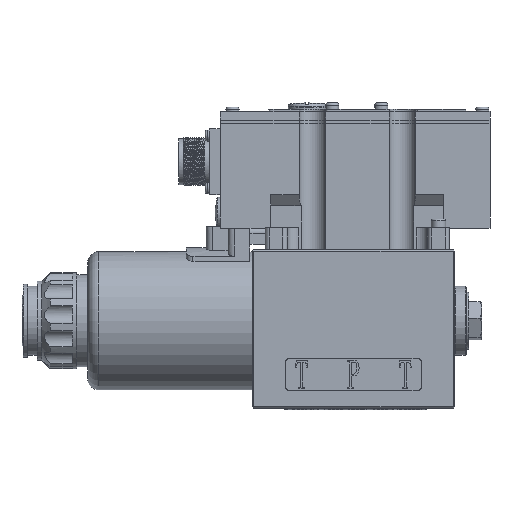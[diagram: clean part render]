
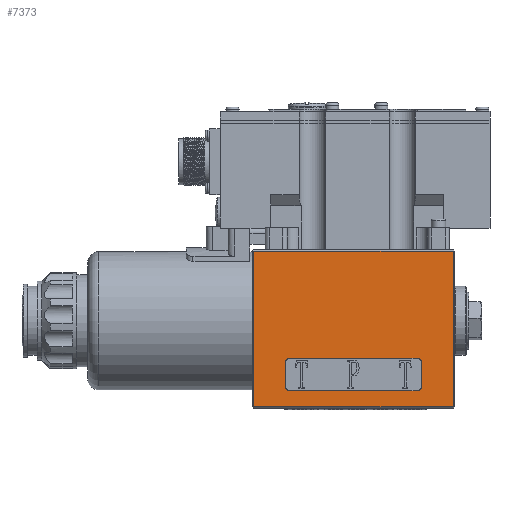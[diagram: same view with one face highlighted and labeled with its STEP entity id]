
A CAD part, front view. The second image highlights one B-rep face of the part: STEP entity #7373.
In plain terms, the highlighted planar face has unit normal (0, -1, 0).
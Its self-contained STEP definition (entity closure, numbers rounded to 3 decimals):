
#1721=PLANE('',#21527);
#3988=LINE('',#61844,#5641);
#3989=LINE('',#61847,#5642);
#3990=LINE('',#61849,#5643);
#3991=LINE('',#61851,#5644);
#3992=LINE('',#61855,#5645);
#3993=LINE('',#61859,#5646);
#3994=LINE('',#61863,#5647);
#3995=LINE('',#61867,#5648);
#5641=VECTOR('',#25100,1.);
#5642=VECTOR('',#25101,1.);
#5643=VECTOR('',#25102,1.);
#5644=VECTOR('',#25103,1.);
#5645=VECTOR('',#25106,1.);
#5646=VECTOR('',#25109,1.);
#5647=VECTOR('',#25112,1.);
#5648=VECTOR('',#25115,1.);
#7373=ADVANCED_FACE('',(#8257,#8258),#1721,.T.);
#8257=FACE_BOUND('',#9176,.T.);
#8258=FACE_BOUND('',#9177,.T.);
#9176=EDGE_LOOP('',(#12563,#12564,#12565,#12566));
#9177=EDGE_LOOP('',(#12567,#12568,#12569,#12570,#12571,#12572,#12573,#12574));
#12563=ORIENTED_EDGE('',*,*,#18603,.T.);
#12564=ORIENTED_EDGE('',*,*,#18604,.T.);
#12565=ORIENTED_EDGE('',*,*,#18605,.T.);
#12566=ORIENTED_EDGE('',*,*,#18606,.T.);
#12567=ORIENTED_EDGE('',*,*,#18607,.T.);
#12568=ORIENTED_EDGE('',*,*,#18608,.T.);
#12569=ORIENTED_EDGE('',*,*,#18609,.T.);
#12570=ORIENTED_EDGE('',*,*,#18610,.T.);
#12571=ORIENTED_EDGE('',*,*,#18611,.T.);
#12572=ORIENTED_EDGE('',*,*,#18612,.T.);
#12573=ORIENTED_EDGE('',*,*,#18613,.T.);
#12574=ORIENTED_EDGE('',*,*,#18614,.T.);
#16341=VERTEX_POINT('',#61845);
#16342=VERTEX_POINT('',#61846);
#16343=VERTEX_POINT('',#61848);
#16344=VERTEX_POINT('',#61850);
#16345=VERTEX_POINT('',#61853);
#16346=VERTEX_POINT('',#61854);
#16347=VERTEX_POINT('',#61856);
#16348=VERTEX_POINT('',#61858);
#16349=VERTEX_POINT('',#61860);
#16350=VERTEX_POINT('',#61862);
#16351=VERTEX_POINT('',#61864);
#16352=VERTEX_POINT('',#61866);
#18603=EDGE_CURVE('',#16341,#16342,#3988,.T.);
#18604=EDGE_CURVE('',#16342,#16343,#3989,.T.);
#18605=EDGE_CURVE('',#16343,#16344,#3990,.T.);
#18606=EDGE_CURVE('',#16344,#16341,#3991,.T.);
#18607=EDGE_CURVE('',#16345,#16346,#20324,.T.);
#18608=EDGE_CURVE('',#16346,#16347,#3992,.T.);
#18609=EDGE_CURVE('',#16347,#16348,#20325,.T.);
#18610=EDGE_CURVE('',#16348,#16349,#3993,.T.);
#18611=EDGE_CURVE('',#16349,#16350,#20326,.T.);
#18612=EDGE_CURVE('',#16350,#16351,#3994,.T.);
#18613=EDGE_CURVE('',#16351,#16352,#20327,.T.);
#18614=EDGE_CURVE('',#16352,#16345,#3995,.T.);
#20324=CIRCLE('',#21523,2.);
#20325=CIRCLE('',#21524,2.);
#20326=CIRCLE('',#21525,2.);
#20327=CIRCLE('',#21526,2.);
#21523=AXIS2_PLACEMENT_3D('',#61852,#25104,#25105);
#21524=AXIS2_PLACEMENT_3D('',#61857,#25107,#25108);
#21525=AXIS2_PLACEMENT_3D('',#61861,#25110,#25111);
#21526=AXIS2_PLACEMENT_3D('',#61865,#25113,#25114);
#21527=AXIS2_PLACEMENT_3D('',#61868,#25116,#25117);
#25100=DIRECTION('',(0.,0.,-1.));
#25101=DIRECTION('',(1.,0.,0.));
#25102=DIRECTION('',(0.,0.,1.));
#25103=DIRECTION('',(-1.,0.,0.));
#25104=DIRECTION('',(0.,1.,0.));
#25105=DIRECTION('',(0.,0.,-1.));
#25106=DIRECTION('',(0.,0.,1.));
#25107=DIRECTION('',(0.,1.,0.));
#25108=DIRECTION('',(0.,0.,-1.));
#25109=DIRECTION('',(1.,0.,0.));
#25110=DIRECTION('',(0.,1.,0.));
#25111=DIRECTION('',(0.,0.,-1.));
#25112=DIRECTION('',(0.,0.,-1.));
#25113=DIRECTION('',(0.,1.,0.));
#25114=DIRECTION('',(0.,0.,-1.));
#25115=DIRECTION('',(-1.,0.,0.));
#25116=DIRECTION('',(0.,-1.,0.));
#25117=DIRECTION('',(0.,0.,1.));
#61844=CARTESIAN_POINT('',(92.9,-70.,-72.5));
#61845=CARTESIAN_POINT('',(92.9,-70.,-0.7));
#61846=CARTESIAN_POINT('',(92.9,-70.,-71.8));
#61847=CARTESIAN_POINT('',(184.6,-70.,-71.8));
#61848=CARTESIAN_POINT('',(183.9,-70.,-71.8));
#61849=CARTESIAN_POINT('',(183.9,-70.,-72.5));
#61850=CARTESIAN_POINT('',(183.9,-70.,-0.7));
#61851=CARTESIAN_POINT('',(92.2,-70.,-0.7));
#61852=CARTESIAN_POINT('',(109.4,-70.,-62.5));
#61853=CARTESIAN_POINT('',(109.4,-70.,-64.5));
#61854=CARTESIAN_POINT('',(107.4,-70.,-62.5));
#61855=CARTESIAN_POINT('',(107.4,-70.,-72.5));
#61856=CARTESIAN_POINT('',(107.4,-70.,-51.5));
#61857=CARTESIAN_POINT('',(109.4,-70.,-51.5));
#61858=CARTESIAN_POINT('',(109.4,-70.,-49.5));
#61859=CARTESIAN_POINT('',(92.2,-70.,-49.5));
#61860=CARTESIAN_POINT('',(167.4,-70.,-49.5));
#61861=CARTESIAN_POINT('',(167.4,-70.,-51.5));
#61862=CARTESIAN_POINT('',(169.4,-70.,-51.5));
#61863=CARTESIAN_POINT('',(169.4,-70.,-72.5));
#61864=CARTESIAN_POINT('',(169.4,-70.,-62.5));
#61865=CARTESIAN_POINT('',(167.4,-70.,-62.5));
#61866=CARTESIAN_POINT('',(167.4,-70.,-64.5));
#61867=CARTESIAN_POINT('',(92.2,-70.,-64.5));
#61868=CARTESIAN_POINT('',(92.2,-70.,-72.5));
